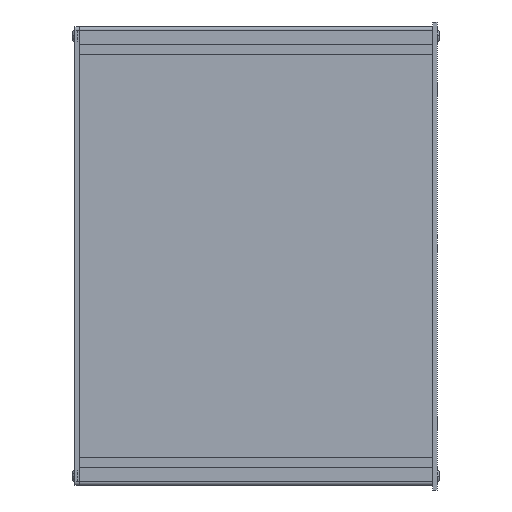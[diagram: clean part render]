
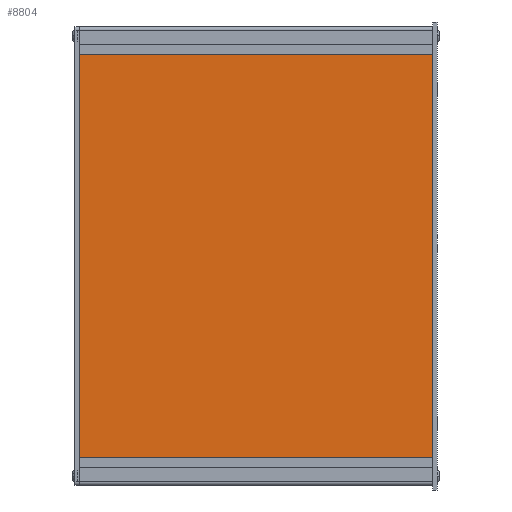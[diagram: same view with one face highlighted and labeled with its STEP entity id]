
A CAD part, left-side view. The second image highlights one B-rep face of the part: STEP entity #8804.
In plain terms, the highlighted planar face has unit normal (-1, 0, 0).
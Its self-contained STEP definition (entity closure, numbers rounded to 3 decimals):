
#972=PLANE('',#9674);
#1268=FACE_OUTER_BOUND('',#1814,.T.);
#1814=EDGE_LOOP('',(#6737,#6738,#6739,#6740));
#2614=LINE('',#13918,#3304);
#2624=LINE('',#13939,#3314);
#2625=LINE('',#13941,#3315);
#2626=LINE('',#13942,#3316);
#3304=VECTOR('',#11148,10.);
#3314=VECTOR('',#11166,10.);
#3315=VECTOR('',#11167,10.);
#3316=VECTOR('',#11168,10.);
#4330=VERTEX_POINT('',#13911);
#4333=VERTEX_POINT('',#13916);
#4340=VERTEX_POINT('',#13938);
#4341=VERTEX_POINT('',#13940);
#5197=EDGE_CURVE('',#4330,#4333,#2614,.T.);
#5207=EDGE_CURVE('',#4330,#4340,#2624,.T.);
#5208=EDGE_CURVE('',#4341,#4333,#2625,.T.);
#5209=EDGE_CURVE('',#4340,#4341,#2626,.T.);
#6737=ORIENTED_EDGE('',*,*,#5207,.F.);
#6738=ORIENTED_EDGE('',*,*,#5197,.T.);
#6739=ORIENTED_EDGE('',*,*,#5208,.F.);
#6740=ORIENTED_EDGE('',*,*,#5209,.F.);
#8804=ADVANCED_FACE('',(#1268),#972,.T.);
#9674=AXIS2_PLACEMENT_3D('',#13937,#11164,#11165);
#11148=DIRECTION('',(0.,1.,0.));
#11164=DIRECTION('center_axis',(-1.,0.,0.));
#11165=DIRECTION('ref_axis',(0.,0.,1.));
#11166=DIRECTION('',(0.,0.,-1.));
#11167=DIRECTION('',(0.,0.,1.));
#11168=DIRECTION('',(0.,1.,0.));
#13911=CARTESIAN_POINT('',(239.,0.,69.8));
#13916=CARTESIAN_POINT('',(239.,200.,69.8));
#13918=CARTESIAN_POINT('',(239.,0.,69.8));
#13937=CARTESIAN_POINT('Origin',(239.,0.,-157.9));
#13938=CARTESIAN_POINT('',(239.,0.,-157.9));
#13939=CARTESIAN_POINT('',(239.,0.,-44.05));
#13940=CARTESIAN_POINT('',(239.,200.,-157.9));
#13941=CARTESIAN_POINT('',(239.,200.,-44.05));
#13942=CARTESIAN_POINT('',(239.,0.,-157.9));
